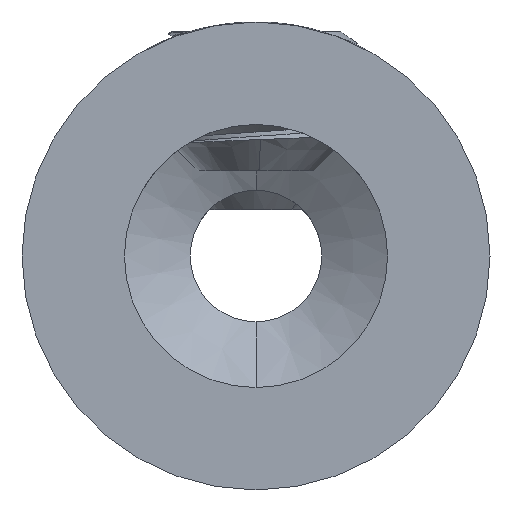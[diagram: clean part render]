
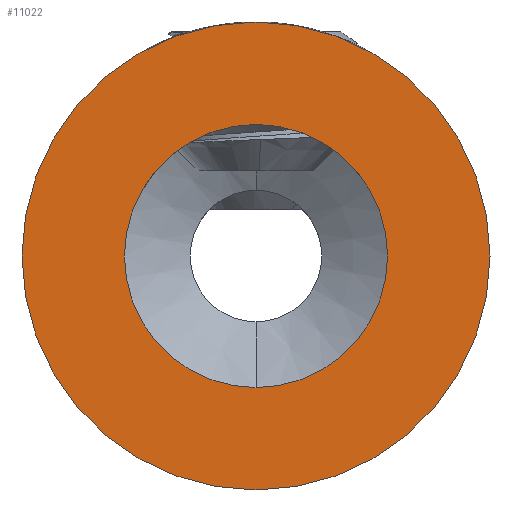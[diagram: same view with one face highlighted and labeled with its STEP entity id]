
A CAD part, front view. The second image highlights one B-rep face of the part: STEP entity #11022.
In plain terms, the highlighted planar face has unit normal (0, -1, 0).
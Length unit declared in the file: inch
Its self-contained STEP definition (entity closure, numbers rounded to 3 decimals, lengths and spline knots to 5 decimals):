
#787 = CARTESIAN_POINT ( 'NONE',  ( 0., 0., -0.11811 ) ) ;
#1789 = CIRCLE ( 'NONE', #7176, 0.11811 ) ;
#1887 = CARTESIAN_POINT ( 'NONE',  ( 0., 0., 0. ) ) ;
#2350 = AXIS2_PLACEMENT_3D ( 'NONE', #10138, #3167, #11157 ) ;
#2390 = ORIENTED_EDGE ( 'NONE', *, *, #9528, .F. ) ;
#3167 = DIRECTION ( 'NONE',  ( 0., -1., 0. ) ) ;
#4117 = EDGE_LOOP ( 'NONE', ( #5564, #2390 ) ) ;
#4527 = FACE_BOUND ( 'NONE', #4117, .T. ) ;
#4640 = VERTEX_POINT ( 'NONE', #5800 ) ;
#4708 = CIRCLE ( 'NONE', #8350, 0.21 ) ;
#4862 = VERTEX_POINT ( 'NONE', #787 ) ;
#4872 = DIRECTION ( 'NONE',  ( 0., 0., 1. ) ) ;
#4950 = PLANE ( 'NONE',  #11761 ) ;
#4994 = DIRECTION ( 'NONE',  ( 0., 1., 0. ) ) ;
#5564 = ORIENTED_EDGE ( 'NONE', *, *, #5716, .F. ) ;
#5669 = ORIENTED_EDGE ( 'NONE', *, *, #6968, .F. ) ;
#5716 = EDGE_CURVE ( 'NONE', #4862, #7241, #1789, .T. ) ;
#5800 = CARTESIAN_POINT ( 'NONE',  ( 0., 0., 0.21 ) ) ;
#6113 = DIRECTION ( 'NONE',  ( 0., 1., 0. ) ) ;
#6136 = EDGE_LOOP ( 'NONE', ( #7904, #5669 ) ) ;
#6846 = CARTESIAN_POINT ( 'NONE',  ( 0., 0., 0. ) ) ;
#6854 = DIRECTION ( 'NONE',  ( 0., 1., 0. ) ) ;
#6968 = EDGE_CURVE ( 'NONE', #4640, #7221, #10878, .T. ) ;
#7033 = CIRCLE ( 'NONE', #2350, 0.11811 ) ;
#7176 = AXIS2_PLACEMENT_3D ( 'NONE', #9582, #10629, #10453 ) ;
#7221 = VERTEX_POINT ( 'NONE', #7684 ) ;
#7241 = VERTEX_POINT ( 'NONE', #11152 ) ;
#7684 = CARTESIAN_POINT ( 'NONE',  ( 0., 0., -0.21 ) ) ;
#7904 = ORIENTED_EDGE ( 'NONE', *, *, #8546, .F. ) ;
#8350 = AXIS2_PLACEMENT_3D ( 'NONE', #6846, #4994, #8980 ) ;
#8546 = EDGE_CURVE ( 'NONE', #7221, #4640, #4708, .T. ) ;
#8980 = DIRECTION ( 'NONE',  ( 0., 0., 1. ) ) ;
#9528 = EDGE_CURVE ( 'NONE', #7241, #4862, #7033, .T. ) ;
#9582 = CARTESIAN_POINT ( 'NONE',  ( 0., 0., 0. ) ) ;
#10138 = CARTESIAN_POINT ( 'NONE',  ( 0., 0., 0. ) ) ;
#10453 = DIRECTION ( 'NONE',  ( 0., 0., -1. ) ) ;
#10629 = DIRECTION ( 'NONE',  ( 0., -1., 0. ) ) ;
#10878 = CIRCLE ( 'NONE', #12413, 0.21 ) ;
#10886 = FACE_OUTER_BOUND ( 'NONE', #6136, .T. ) ;
#11022 = ADVANCED_FACE ( 'NONE', ( #4527, #10886 ), #4950, .F. ) ;
#11067 = CARTESIAN_POINT ( 'NONE',  ( 0., 0., 0. ) ) ;
#11152 = CARTESIAN_POINT ( 'NONE',  ( 0., 0., 0.11811 ) ) ;
#11157 = DIRECTION ( 'NONE',  ( 0., 0., -1. ) ) ;
#11761 = AXIS2_PLACEMENT_3D ( 'NONE', #11067, #6113, #11976 ) ;
#11976 = DIRECTION ( 'NONE',  ( 0., 0., 1. ) ) ;
#12413 = AXIS2_PLACEMENT_3D ( 'NONE', #1887, #6854, #4872 ) ;
